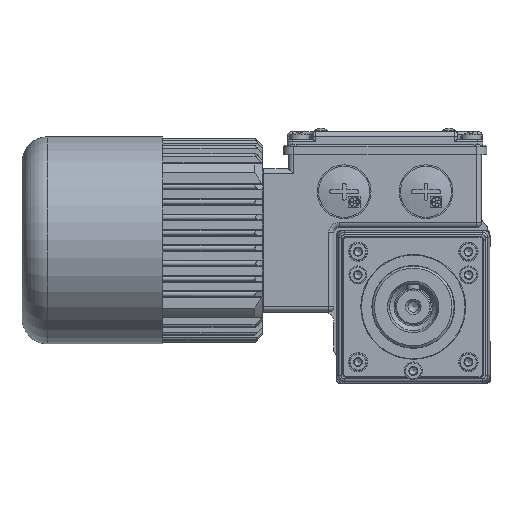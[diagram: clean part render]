
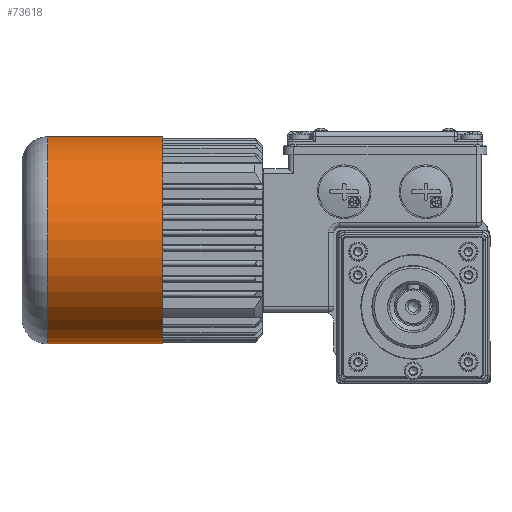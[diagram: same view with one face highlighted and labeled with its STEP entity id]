
A CAD part, front view. The second image highlights one B-rep face of the part: STEP entity #73618.
In plain terms, the highlighted cylindrical face has radius 40.5 mm (diameter 81 mm), a full revolution.
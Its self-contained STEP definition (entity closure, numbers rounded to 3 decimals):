
#18427=CYLINDRICAL_SURFACE('',#79723,40.5);
#19302=FACE_BOUND('',#26605,.T.);
#22199=FACE_OUTER_BOUND('',#26604,.T.);
#26604=EDGE_LOOP('',(#63205));
#26605=EDGE_LOOP('',(#63206));
#29977=CIRCLE('',#79721,40.5);
#29979=CIRCLE('',#79724,40.5);
#35579=VERTEX_POINT('',#128700);
#35581=VERTEX_POINT('',#128705);
#45277=EDGE_CURVE('',#35579,#35579,#29977,.T.);
#45279=EDGE_CURVE('',#35581,#35581,#29979,.T.);
#63205=ORIENTED_EDGE('',*,*,#45279,.T.);
#63206=ORIENTED_EDGE('',*,*,#45277,.F.);
#73618=ADVANCED_FACE('',(#22199,#19302),#18427,.T.);
#79721=AXIS2_PLACEMENT_3D('',#128701,#94396,#94397);
#79723=AXIS2_PLACEMENT_3D('',#128704,#94400,#94401);
#79724=AXIS2_PLACEMENT_3D('',#128706,#94402,#94403);
#94396=DIRECTION('center_axis',(0.,0.,-1.));
#94397=DIRECTION('ref_axis',(-1.,0.,0.));
#94400=DIRECTION('center_axis',(0.,0.,1.));
#94401=DIRECTION('ref_axis',(-1.,0.,0.));
#94402=DIRECTION('center_axis',(0.,0.,-1.));
#94403=DIRECTION('ref_axis',(-1.,0.,0.));
#128700=CARTESIAN_POINT('',(40.5,0.,10.));
#128701=CARTESIAN_POINT('Origin',(0.,0.,10.));
#128704=CARTESIAN_POINT('Origin',(0.,0.,0.));
#128705=CARTESIAN_POINT('',(40.5,0.,55.));
#128706=CARTESIAN_POINT('Origin',(0.,0.,55.));
